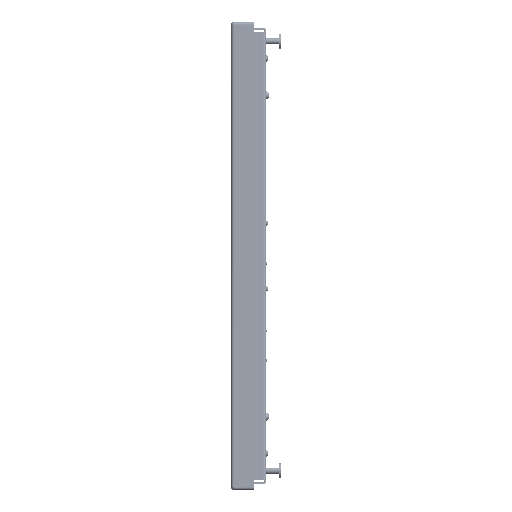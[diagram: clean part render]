
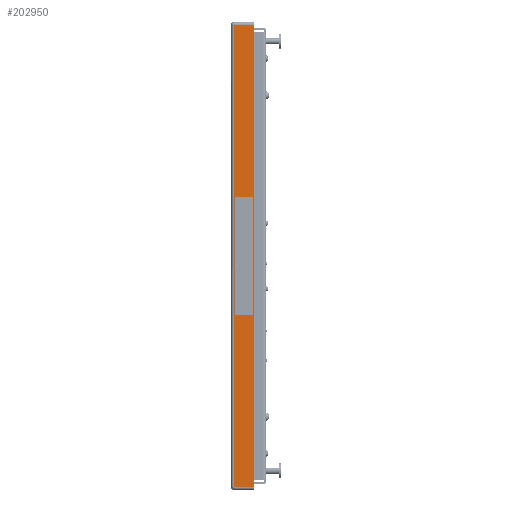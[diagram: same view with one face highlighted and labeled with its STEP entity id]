
A CAD part, left-side view. The second image highlights one B-rep face of the part: STEP entity #202950.
In plain terms, the highlighted planar face has unit normal (-1, 0, 0).
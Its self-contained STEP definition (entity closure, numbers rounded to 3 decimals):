
#119 = EDGE_CURVE ( 'NONE', #244428, #160047, #386481, .T. ) ;
#12255 = ORIENTED_EDGE ( 'NONE', *, *, #119, .T. ) ;
#21702 = PLANE ( 'NONE',  #141292 ) ;
#28313 = ORIENTED_EDGE ( 'NONE', *, *, #211003, .T. ) ;
#28506 = EDGE_LOOP ( 'NONE', ( #347134, #12255, #28313, #101473 ) ) ;
#49287 = CARTESIAN_POINT ( 'NONE',  ( -300., 0.813, 296.27 ) ) ;
#68999 = FACE_OUTER_BOUND ( 'NONE', #28506, .T. ) ;
#85178 = CARTESIAN_POINT ( 'NONE',  ( -300., 0., -296.27 ) ) ;
#101473 = ORIENTED_EDGE ( 'NONE', *, *, #183289, .F. ) ;
#102515 = VERTEX_POINT ( 'NONE', #114121 ) ;
#111825 = CARTESIAN_POINT ( 'NONE',  ( -300., 0., 0. ) ) ;
#114121 = CARTESIAN_POINT ( 'NONE',  ( -300., 26.437, -296.27 ) ) ;
#115909 = DIRECTION ( 'NONE',  ( 1., 0., 0. ) ) ;
#121281 = DIRECTION ( 'NONE',  ( 0., 0., -1. ) ) ;
#130789 = VECTOR ( 'NONE', #199857, 1000. ) ;
#136543 = LINE ( 'NONE', #410100, #383807 ) ;
#141292 = AXIS2_PLACEMENT_3D ( 'NONE', #111825, #115909, #175261 ) ;
#153629 = CARTESIAN_POINT ( 'NONE',  ( -300., 0.813, -296.27 ) ) ;
#154175 = DIRECTION ( 'NONE',  ( 0., 1., 0. ) ) ;
#160047 = VERTEX_POINT ( 'NONE', #161950 ) ;
#161950 = CARTESIAN_POINT ( 'NONE',  ( -300., 26.437, 296.27 ) ) ;
#175261 = DIRECTION ( 'NONE',  ( 0., 1., 0. ) ) ;
#183289 = EDGE_CURVE ( 'NONE', #193586, #102515, #372350, .T. ) ;
#187342 = CARTESIAN_POINT ( 'NONE',  ( -300., 0., 296.27 ) ) ;
#193586 = VERTEX_POINT ( 'NONE', #153629 ) ;
#199857 = DIRECTION ( 'NONE',  ( 0., 0., -1. ) ) ;
#202950 = ADVANCED_FACE ( 'NONE', ( #68999 ), #21702, .F. ) ;
#204916 = LINE ( 'NONE', #299257, #130789 ) ;
#211003 = EDGE_CURVE ( 'NONE', #160047, #102515, #204916, .T. ) ;
#244428 = VERTEX_POINT ( 'NONE', #49287 ) ;
#299257 = CARTESIAN_POINT ( 'NONE',  ( -300., 26.437, 0. ) ) ;
#311812 = DIRECTION ( 'NONE',  ( 0., 1., 0. ) ) ;
#326487 = VECTOR ( 'NONE', #311812, 1000. ) ;
#342597 = VECTOR ( 'NONE', #154175, 1000. ) ;
#344488 = EDGE_CURVE ( 'NONE', #244428, #193586, #136543, .T. ) ;
#347134 = ORIENTED_EDGE ( 'NONE', *, *, #344488, .F. ) ;
#372350 = LINE ( 'NONE', #85178, #342597 ) ;
#383807 = VECTOR ( 'NONE', #121281, 1000. ) ;
#386481 = LINE ( 'NONE', #187342, #326487 ) ;
#410100 = CARTESIAN_POINT ( 'NONE',  ( -300., 0.813, -300. ) ) ;
